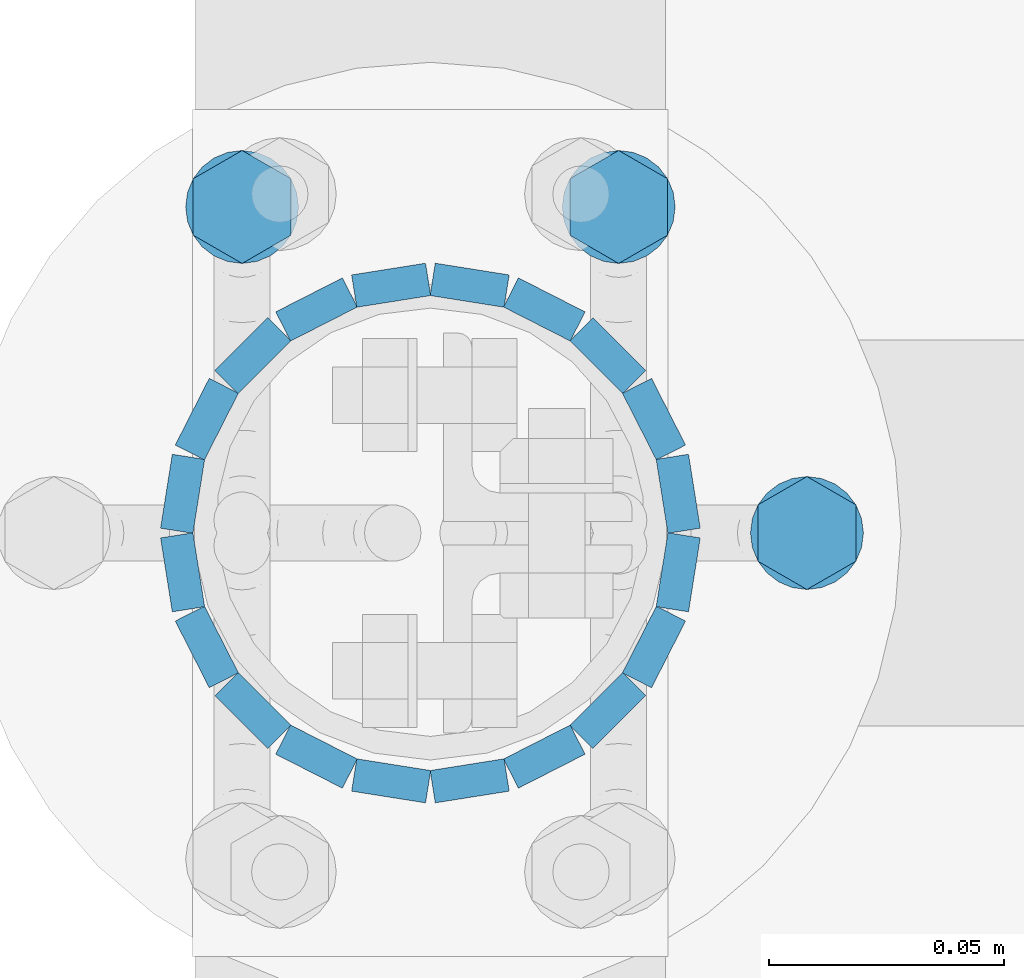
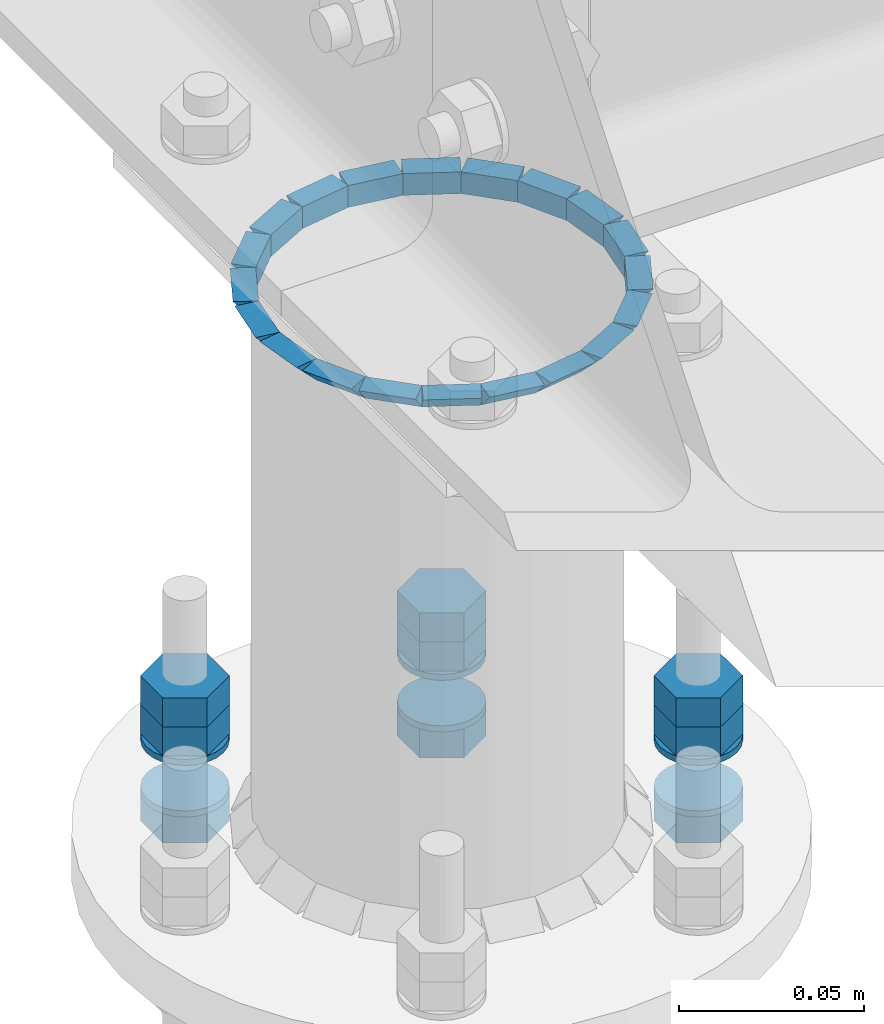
# One storey, part 25 of 84: 40 fasteners, 15 mechanical fasteners.
"""IFC4 building model written with IfcOpenShell, lengths in metres."""

from ifc_helpers import new_model, si_unit, frame, origin_with_axes, place, context, project, spatial, polyline, outline, extrude, type_object, element, save


model = new_model("IFC4")

# Units and contexts
model_context = context("Model", 3, precision=1e-05, world=origin_with_axes())
ifc_project = project(units=[si_unit("LENGTHUNIT", "METRE"), si_unit("AREAUNIT", "SQUARE_METRE"), si_unit("VOLUMEUNIT", "CUBIC_METRE"), si_unit("MASSUNIT", "GRAM", prefix="KILO"), si_unit("TIMEUNIT", "SECOND"), si_unit("PLANEANGLEUNIT", "RADIAN"), si_unit("SOLIDANGLEUNIT", "STERADIAN"), si_unit("THERMODYNAMICTEMPERATUREUNIT", "DEGREE_CELSIUS")], contexts=[model_context])

# Site, building, storey
placement_1 = place(None, origin_with_axes())
site = spatial("IfcSite", under=ifc_project, at=placement_1, Name="Italia", CompositionType="ELEMENT")
building = spatial("IfcBuilding", under=site, at=placement_1, Name="Tettoia", CompositionType="ELEMENT")
storey_placement = place(None, frame((0.0, 0.0, 4.199999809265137), z_axis=(0.0, 0.0, 1.0), x_axis=(1.0, 0.0, 0.0)))
storey = spatial("IfcBuildingStorey", under=building, at=storey_placement, Name="Storey 1", CompositionType="ELEMENT", Elevation=4.199999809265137)

# Mechanical fasteners
mechanical_fastener_type_1 = type_object("IfcMechanicalFastenerType", Name="Collegamento -003_0103", PredefinedType="BOLT")
placement_2 = place(placement_1, origin_with_axes())
mechanical_fastener_1_placement = place(placement_2, origin_with_axes())
element("IfcMechanicalFastener", 1, at=mechanical_fastener_1_placement, inside=storey, type_object=mechanical_fastener_type_1, Name="Collegamento -003_0103", NominalDiameter=0.0119999, context=model_context, shape_type="SweptSolid", body=[
    extrude(outline(polyline([(0.0, 0.0), (-0.0120001, 0.0), (-0.0180001, 0.0103922), (-0.0120001, 0.0207844), (0.0, 0.0207844), (0.00600004, 0.0103922), (0.0, 0.0)])), frame((8.38039, 4.656, 4.017), z_axis=(0.0, 0.0, 1.0), x_axis=(0.0, 1.0, 0.0)), (0.0, 0.0, 1.0), 0.00959969),
])
mechanical_fastener_type_2 = type_object("IfcMechanicalFastenerType", Name="Collegamento -003_0103", PredefinedType="BOLT")
mechanical_fastener_2_placement = place(placement_2, origin_with_axes())
element("IfcMechanicalFastener", 2, at=mechanical_fastener_2_placement, inside=storey, type_object=mechanical_fastener_type_2, Name="Collegamento -003_0103", NominalDiameter=0.0119999, context=model_context, shape_type="SweptSolid", body=[
    extrude(outline(polyline([(0.0, 0.0), (-0.0120001, 0.0), (-0.0180001, 0.0103922), (-0.0120001, 0.0207844), (0.0, 0.0207844), (0.00600004, 0.0103922), (0.0, 0.0)])), frame((8.38039, 4.656, 4.0266), z_axis=(0.0, 0.0, 1.0), x_axis=(0.0, 1.0, 0.0)), (0.0, 0.0, 1.0), 0.00960016),
])
mechanical_fastener_type_3 = type_object("IfcMechanicalFastenerType", Name="Collegamento -003_0103", PredefinedType="BOLT")
mechanical_fastener_3_placement = place(placement_2, origin_with_axes())
element("IfcMechanicalFastener", 3, at=mechanical_fastener_3_placement, inside=storey, type_object=mechanical_fastener_type_3, Name="Collegamento -003_0103", NominalDiameter=0.0119999, context=model_context, shape_type="SweptSolid", body=[
    extrude(outline(polyline([(0.0, 0.0), (-0.0120001, 0.0), (-0.0180001, 0.0103922), (-0.0120001, 0.0207844), (0.0, 0.0207844), (0.00600004, 0.0103922), (0.0, 0.0)])), frame((8.38039, 4.656, 3.9884), z_axis=(0.0, 0.0, 1.0), x_axis=(0.0, 1.0, 0.0)), (0.0, 0.0, 1.0), 0.00959992),
])
mechanical_fastener_type_4 = type_object("IfcMechanicalFastenerType", Name="Collegamento -003_0103", PredefinedType="BOLT")
mechanical_fastener_4_placement = place(placement_2, origin_with_axes())
element("IfcMechanicalFastener", 4, at=mechanical_fastener_4_placement, inside=storey, type_object=mechanical_fastener_type_4, Name="Collegamento -003_0103", NominalDiameter=0.024, context=model_context, shape_type="SweptSolid", body=[
    extrude(outline(polyline([(0.0, 0.0), (-0.000409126, -0.00310612), (-0.00160789, -0.00599957), (-0.00351477, -0.00848484), (-0.00600004, -0.0103922), (-0.00889444, -0.011591), (-0.0120001, -0.0120001), (-0.0151057, -0.011591), (-0.0180001, -0.0103922), (-0.0204854, -0.00848484), (-0.0223923, -0.00599957), (-0.023591, -0.00310612), (-0.0240002, 0.0), (-0.023591, 0.00310612), (-0.0223923, 0.00599957), (-0.0204854, 0.00848484), (-0.0180001, 0.0103922), (-0.0151057, 0.011591), (-0.0120001, 0.0120001), (-0.00889444, 0.011591), (-0.00600004, 0.0103922), (-0.00351477, 0.00848484), (-0.00160789, 0.00599957), (-0.000409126, 0.00310612), (0.0, 0.0)])), frame((8.37, 4.662, 4.015), z_axis=(0.0, 0.0, 1.0), x_axis=(0.0, 1.0, 0.0)), (0.0, 0.0, 1.0), 0.00200033),
])
mechanical_fastener_type_5 = type_object("IfcMechanicalFastenerType", Name="Collegamento -003_0103", PredefinedType="BOLT")
mechanical_fastener_5_placement = place(placement_2, origin_with_axes())
element("IfcMechanicalFastener", 5, at=mechanical_fastener_5_placement, inside=storey, type_object=mechanical_fastener_type_5, Name="Collegamento -003_0103", NominalDiameter=0.024, context=model_context, shape_type="SweptSolid", body=[
    extrude(outline(polyline([(0.0, 0.0), (-0.000409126, -0.00310612), (-0.00160789, -0.00599957), (-0.00351477, -0.00848484), (-0.00600004, -0.0103922), (-0.00889444, -0.011591), (-0.0120001, -0.0120001), (-0.0151057, -0.011591), (-0.0180001, -0.0103922), (-0.0204854, -0.00848484), (-0.0223923, -0.00599957), (-0.023591, -0.00310612), (-0.0240002, 0.0), (-0.023591, 0.00310612), (-0.0223923, 0.00599957), (-0.0204854, 0.00848484), (-0.0180001, 0.0103922), (-0.0151057, 0.011591), (-0.0120001, 0.0120001), (-0.00889444, 0.011591), (-0.00600004, 0.0103922), (-0.00351477, 0.00848484), (-0.00160789, 0.00599957), (-0.000409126, 0.00310612), (0.0, 0.0)])), frame((8.37, 4.662, 3.998), z_axis=(0.0, 0.0, 1.0), x_axis=(0.0, 1.0, 0.0)), (0.0, 0.0, 1.0), 0.00200009),
])
mechanical_fastener_type_6 = type_object("IfcMechanicalFastenerType", Name="Collegamento -003_0103", PredefinedType="BOLT")
mechanical_fastener_6_placement = place(placement_2, origin_with_axes())
element("IfcMechanicalFastener", 6, at=mechanical_fastener_6_placement, inside=storey, type_object=mechanical_fastener_type_6, Name="Collegamento -003_0103", NominalDiameter=0.0119999, context=model_context, shape_type="SweptSolid", body=[
    extrude(outline(polyline([(0.0, 0.0), (-0.0120001, 0.0), (-0.0180001, 0.0103922), (-0.0120001, 0.0207844), (0.0, 0.0207844), (0.00600004, 0.0103922), (0.0, 0.0)])), frame((8.34039, 4.72528, 4.017), z_axis=(0.0, 0.0, 1.0), x_axis=(0.0, 1.0, 0.0)), (0.0, 0.0, 1.0), 0.00959969),
])
mechanical_fastener_type_7 = type_object("IfcMechanicalFastenerType", Name="Collegamento -003_0103", PredefinedType="BOLT")
mechanical_fastener_7_placement = place(placement_2, origin_with_axes())
element("IfcMechanicalFastener", 7, at=mechanical_fastener_7_placement, inside=storey, type_object=mechanical_fastener_type_7, Name="Collegamento -003_0103", NominalDiameter=0.0119999, context=model_context, shape_type="SweptSolid", body=[
    extrude(outline(polyline([(0.0, 0.0), (-0.0120001, 0.0), (-0.0180001, 0.0103922), (-0.0120001, 0.0207844), (0.0, 0.0207844), (0.00600004, 0.0103922), (0.0, 0.0)])), frame((8.34039, 4.72528, 4.0266), z_axis=(0.0, 0.0, 1.0), x_axis=(0.0, 1.0, 0.0)), (0.0, 0.0, 1.0), 0.00960016),
])
mechanical_fastener_type_8 = type_object("IfcMechanicalFastenerType", Name="Collegamento -003_0103", PredefinedType="BOLT")
mechanical_fastener_8_placement = place(placement_2, origin_with_axes())
element("IfcMechanicalFastener", 8, at=mechanical_fastener_8_placement, inside=storey, type_object=mechanical_fastener_type_8, Name="Collegamento -003_0103", NominalDiameter=0.0119999, context=model_context, shape_type="SweptSolid", body=[
    extrude(outline(polyline([(0.0, 0.0), (-0.0120001, 0.0), (-0.0180001, 0.0103922), (-0.0120001, 0.0207844), (0.0, 0.0207844), (0.00600004, 0.0103922), (0.0, 0.0)])), frame((8.34039, 4.72528, 3.9884), z_axis=(0.0, 0.0, 1.0), x_axis=(0.0, 1.0, 0.0)), (0.0, 0.0, 1.0), 0.00959992),
])
mechanical_fastener_type_9 = type_object("IfcMechanicalFastenerType", Name="Collegamento -003_0103", PredefinedType="BOLT")
mechanical_fastener_9_placement = place(placement_2, origin_with_axes())
element("IfcMechanicalFastener", 9, at=mechanical_fastener_9_placement, inside=storey, type_object=mechanical_fastener_type_9, Name="Collegamento -003_0103", NominalDiameter=0.024, context=model_context, shape_type="SweptSolid", body=[
    extrude(outline(polyline([(0.0, 0.0), (-0.000409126, -0.00310612), (-0.00160789, -0.00599957), (-0.00351477, -0.00848484), (-0.00600004, -0.0103922), (-0.00889444, -0.011591), (-0.0120001, -0.0120001), (-0.0151057, -0.011591), (-0.0180001, -0.0103922), (-0.0204854, -0.00848484), (-0.0223923, -0.00599957), (-0.023591, -0.00310612), (-0.0240002, 0.0), (-0.023591, 0.00310612), (-0.0223923, 0.00599957), (-0.0204854, 0.00848484), (-0.0180001, 0.0103922), (-0.0151057, 0.011591), (-0.0120001, 0.0120001), (-0.00889444, 0.011591), (-0.00600004, 0.0103922), (-0.00351477, 0.00848484), (-0.00160789, 0.00599957), (-0.000409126, 0.00310612), (0.0, 0.0)])), frame((8.33, 4.73128, 4.015), z_axis=(0.0, 0.0, 1.0), x_axis=(0.0, 1.0, 0.0)), (0.0, 0.0, 1.0), 0.00200033),
])
mechanical_fastener_type_10 = type_object("IfcMechanicalFastenerType", Name="Collegamento -003_0103", PredefinedType="BOLT")
mechanical_fastener_10_placement = place(placement_2, origin_with_axes())
element("IfcMechanicalFastener", 10, at=mechanical_fastener_10_placement, inside=storey, type_object=mechanical_fastener_type_10, Name="Collegamento -003_0103", NominalDiameter=0.024, context=model_context, shape_type="SweptSolid", body=[
    extrude(outline(polyline([(0.0, 0.0), (-0.000409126, -0.00310612), (-0.00160789, -0.00599957), (-0.00351477, -0.00848484), (-0.00600004, -0.0103922), (-0.00889444, -0.011591), (-0.0120001, -0.0120001), (-0.0151057, -0.011591), (-0.0180001, -0.0103922), (-0.0204854, -0.00848484), (-0.0223923, -0.00599957), (-0.023591, -0.00310612), (-0.0240002, 0.0), (-0.023591, 0.00310612), (-0.0223923, 0.00599957), (-0.0204854, 0.00848484), (-0.0180001, 0.0103922), (-0.0151057, 0.011591), (-0.0120001, 0.0120001), (-0.00889444, 0.011591), (-0.00600004, 0.0103922), (-0.00351477, 0.00848484), (-0.00160789, 0.00599957), (-0.000409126, 0.00310612), (0.0, 0.0)])), frame((8.33, 4.73128, 3.998), z_axis=(0.0, 0.0, 1.0), x_axis=(0.0, 1.0, 0.0)), (0.0, 0.0, 1.0), 0.00200009),
])
mechanical_fastener_type_11 = type_object("IfcMechanicalFastenerType", Name="Collegamento -003_0103", PredefinedType="BOLT")
mechanical_fastener_11_placement = place(placement_2, origin_with_axes())
element("IfcMechanicalFastener", 11, at=mechanical_fastener_11_placement, inside=storey, type_object=mechanical_fastener_type_11, Name="Collegamento -003_0103", NominalDiameter=0.0119999, context=model_context, shape_type="SweptSolid", body=[
    extrude(outline(polyline([(0.0, 0.0), (-0.0120001, 0.0), (-0.0180001, 0.0103922), (-0.0120001, 0.0207844), (0.0, 0.0207844), (0.00600004, 0.0103922), (0.0, 0.0)])), frame((8.26039, 4.72528, 4.017), z_axis=(0.0, 0.0, 1.0), x_axis=(0.0, 1.0, 0.0)), (0.0, 0.0, 1.0), 0.00959969),
])
mechanical_fastener_type_12 = type_object("IfcMechanicalFastenerType", Name="Collegamento -003_0103", PredefinedType="BOLT")
mechanical_fastener_12_placement = place(placement_2, origin_with_axes())
element("IfcMechanicalFastener", 12, at=mechanical_fastener_12_placement, inside=storey, type_object=mechanical_fastener_type_12, Name="Collegamento -003_0103", NominalDiameter=0.0119999, context=model_context, shape_type="SweptSolid", body=[
    extrude(outline(polyline([(0.0, 0.0), (-0.0120001, 0.0), (-0.0180001, 0.0103922), (-0.0120001, 0.0207844), (0.0, 0.0207844), (0.00600004, 0.0103922), (0.0, 0.0)])), frame((8.26039, 4.72528, 4.0266), z_axis=(0.0, 0.0, 1.0), x_axis=(0.0, 1.0, 0.0)), (0.0, 0.0, 1.0), 0.00960016),
])
mechanical_fastener_type_13 = type_object("IfcMechanicalFastenerType", Name="Collegamento -003_0103", PredefinedType="BOLT")
mechanical_fastener_13_placement = place(placement_2, origin_with_axes())
element("IfcMechanicalFastener", 13, at=mechanical_fastener_13_placement, inside=storey, type_object=mechanical_fastener_type_13, Name="Collegamento -003_0103", NominalDiameter=0.0119999, context=model_context, shape_type="SweptSolid", body=[
    extrude(outline(polyline([(0.0, 0.0), (-0.0120001, 0.0), (-0.0180001, 0.0103922), (-0.0120001, 0.0207844), (0.0, 0.0207844), (0.00600004, 0.0103922), (0.0, 0.0)])), frame((8.26039, 4.72528, 3.9884), z_axis=(0.0, 0.0, 1.0), x_axis=(0.0, 1.0, 0.0)), (0.0, 0.0, 1.0), 0.00959992),
])
mechanical_fastener_type_14 = type_object("IfcMechanicalFastenerType", Name="Collegamento -003_0103", PredefinedType="BOLT")
mechanical_fastener_14_placement = place(placement_2, origin_with_axes())
element("IfcMechanicalFastener", 14, at=mechanical_fastener_14_placement, inside=storey, type_object=mechanical_fastener_type_14, Name="Collegamento -003_0103", NominalDiameter=0.024, context=model_context, shape_type="SweptSolid", body=[
    extrude(outline(polyline([(0.0, 0.0), (-0.000409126, -0.00310612), (-0.00160789, -0.00599957), (-0.00351477, -0.00848484), (-0.00600004, -0.0103922), (-0.00889444, -0.011591), (-0.0120001, -0.0120001), (-0.0151057, -0.011591), (-0.0180001, -0.0103922), (-0.0204854, -0.00848484), (-0.0223923, -0.00599957), (-0.023591, -0.00310612), (-0.0240002, 0.0), (-0.023591, 0.00310612), (-0.0223923, 0.00599957), (-0.0204854, 0.00848484), (-0.0180001, 0.0103922), (-0.0151057, 0.011591), (-0.0120001, 0.0120001), (-0.00889444, 0.011591), (-0.00600004, 0.0103922), (-0.00351477, 0.00848484), (-0.00160789, 0.00599957), (-0.000409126, 0.00310612), (0.0, 0.0)])), frame((8.25, 4.73128, 4.015), z_axis=(0.0, 0.0, 1.0), x_axis=(0.0, 1.0, 0.0)), (0.0, 0.0, 1.0), 0.00200033),
])
mechanical_fastener_type_15 = type_object("IfcMechanicalFastenerType", Name="Collegamento -003_0103", PredefinedType="BOLT")
mechanical_fastener_15_placement = place(placement_2, origin_with_axes())
element("IfcMechanicalFastener", 15, at=mechanical_fastener_15_placement, inside=storey, type_object=mechanical_fastener_type_15, Name="Collegamento -003_0103", NominalDiameter=0.024, context=model_context, shape_type="SweptSolid", body=[
    extrude(outline(polyline([(0.0, 0.0), (-0.000409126, -0.00310612), (-0.00160789, -0.00599957), (-0.00351477, -0.00848484), (-0.00600004, -0.0103922), (-0.00889444, -0.011591), (-0.0120001, -0.0120001), (-0.0151057, -0.011591), (-0.0180001, -0.0103922), (-0.0204854, -0.00848484), (-0.0223923, -0.00599957), (-0.023591, -0.00310612), (-0.0240002, 0.0), (-0.023591, 0.00310612), (-0.0223923, 0.00599957), (-0.0204854, 0.00848484), (-0.0180001, 0.0103922), (-0.0151057, 0.011591), (-0.0120001, 0.0120001), (-0.00889444, 0.011591), (-0.00600004, 0.0103922), (-0.00351477, 0.00848484), (-0.00160789, 0.00599957), (-0.000409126, 0.00310612), (0.0, 0.0)])), frame((8.25, 4.73128, 3.998), z_axis=(0.0, 0.0, 1.0), x_axis=(0.0, 1.0, 0.0)), (0.0, 0.0, 1.0), 0.00200009),
])

# Fasteners
fastener_type_1 = type_object("IfcFastenerType", Name="Collegamento 0103_-003", PredefinedType="WELD")
fastener_1_placement = place(placement_2, origin_with_axes())
element("IfcFastener", 16, at=fastener_1_placement, inside=storey, type_object=fastener_type_1, Name="Collegamento 0103_-003", context=model_context, shape_type="SweptSolid", body=[
    extrude(outline(polyline([(0.0, 0.0), (-0.00695753, -0.00717354), (-0.00695753, 0.0), (0.0, 0.0)])), frame((8.29103, 4.70733, 4.19505), z_axis=(0.987694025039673, -0.156398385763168, 0.0), x_axis=(0.156398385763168, 0.987694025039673, 0.0)), (0.0, 0.0, 1.0), 0.0158998),
])
fastener_type_2 = type_object("IfcFastenerType", Name="Collegamento 0103_-003", PredefinedType="WELD")
fastener_2_placement = place(placement_2, origin_with_axes())
element("IfcFastener", 17, at=fastener_2_placement, inside=storey, type_object=fastener_type_2, Name="Collegamento 0103_-003", context=model_context, shape_type="SweptSolid", body=[
    extrude(outline(polyline([(0.0, 0.0), (-0.00695801, -0.00717354), (-0.00695801, 0.0), (0.0, 0.0)])), frame((8.3087, 4.70421, 4.19505), z_axis=(0.891006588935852, -0.453990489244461, 0.0), x_axis=(0.453990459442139, 0.891006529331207, 0.0)), (0.0, 0.0, 1.0), 0.0158998),
])
fastener_type_3 = type_object("IfcFastenerType", Name="Collegamento 0103_-003", PredefinedType="WELD")
fastener_3_placement = place(placement_2, origin_with_axes())
element("IfcFastener", 18, at=fastener_3_placement, inside=storey, type_object=fastener_type_3, Name="Collegamento 0103_-003", context=model_context, shape_type="SweptSolid", body=[
    extrude(outline(polyline([(0.0, 0.0), (-0.00695801, -0.00717354), (-0.00695801, 0.0), (0.0, 0.0)])), frame((8.32453, 4.69578, 4.19505), z_axis=(0.70710676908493, -0.70710676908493, 0.0), x_axis=(0.70710676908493, 0.70710676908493, 0.0)), (0.0, 0.0, 1.0), 0.0158998),
])
fastener_type_4 = type_object("IfcFastenerType", Name="Collegamento 0103_-003", PredefinedType="WELD")
fastener_4_placement = place(placement_2, origin_with_axes())
element("IfcFastener", 19, at=fastener_4_placement, inside=storey, type_object=fastener_type_4, Name="Collegamento 0103_-003", context=model_context, shape_type="SweptSolid", body=[
    extrude(outline(polyline([(0.0, 0.0), (-0.00695896, -0.00717354), (-0.00695896, 0.0), (0.0, 0.0)])), frame((8.33699, 4.68286, 4.19505), z_axis=(0.453990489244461, -0.891006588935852, 0.0), x_axis=(0.891006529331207, 0.453990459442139, 0.0)), (0.0, 0.0, 1.0), 0.0158998),
])
fastener_type_5 = type_object("IfcFastenerType", Name="Collegamento 0103_-003", PredefinedType="WELD")
fastener_5_placement = place(placement_2, origin_with_axes())
element("IfcFastener", 20, at=fastener_5_placement, inside=storey, type_object=fastener_type_5, Name="Collegamento 0103_-003", context=model_context, shape_type="SweptSolid", body=[
    extrude(outline(polyline([(0.0, 0.0), (-0.00695801, -0.00717354), (-0.00695801, 0.0), (0.0, 0.0)])), frame((8.34484, 4.66674, 4.19505), z_axis=(0.1564861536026, -0.987680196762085, 0.0), x_axis=(0.98768013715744, 0.156486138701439, 0.0)), (0.0, 0.0, 1.0), 0.0159),
])
fastener_type_6 = type_object("IfcFastenerType", Name="Collegamento 0103_-003", PredefinedType="WELD")
fastener_6_placement = place(placement_2, origin_with_axes())
element("IfcFastener", 21, at=fastener_6_placement, inside=storey, type_object=fastener_type_6, Name="Collegamento 0103_-003", context=model_context, shape_type="SweptSolid", body=[
    extrude(outline(polyline([(0.0, 0.0), (-0.00695896, -0.00717354), (-0.00695896, 0.0), (0.0, 0.0)])), frame((8.34733, 4.64897, 4.19505), z_axis=(-0.1564861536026, -0.987680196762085, 0.0), x_axis=(0.98768013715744, -0.156486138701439, 0.0)), (0.0, 0.0, 1.0), 0.0159),
])
fastener_type_7 = type_object("IfcFastenerType", Name="Collegamento 0103_-003", PredefinedType="WELD")
fastener_7_placement = place(placement_2, origin_with_axes())
element("IfcFastener", 22, at=fastener_7_placement, inside=storey, type_object=fastener_type_7, Name="Collegamento 0103_-003", context=model_context, shape_type="SweptSolid", body=[
    extrude(outline(polyline([(0.0, 0.0), (-0.00695801, -0.00717354), (-0.00695801, 0.0), (0.0, 0.0)])), frame((8.34421, 4.6313, 4.19505), z_axis=(-0.453990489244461, -0.891006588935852, 0.0), x_axis=(0.891006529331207, -0.453990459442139, 0.0)), (0.0, 0.0, 1.0), 0.0158998),
])
fastener_type_8 = type_object("IfcFastenerType", Name="Collegamento 0103_-003", PredefinedType="WELD")
fastener_8_placement = place(placement_2, origin_with_axes())
element("IfcFastener", 23, at=fastener_8_placement, inside=storey, type_object=fastener_type_8, Name="Collegamento 0103_-003", context=model_context, shape_type="SweptSolid", body=[
    extrude(outline(polyline([(0.0, 0.0), (-0.00695777, -0.00717354), (-0.00695777, 0.0), (0.0, 0.0)])), frame((8.33578, 4.61547, 4.19505), z_axis=(-0.70710676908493, -0.70710676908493, 0.0), x_axis=(0.70710676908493, -0.70710676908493, 0.0)), (0.0, 0.0, 1.0), 0.0158998),
])
fastener_type_9 = type_object("IfcFastenerType", Name="Collegamento 0103_-003", PredefinedType="WELD")
fastener_9_placement = place(placement_2, origin_with_axes())
element("IfcFastener", 24, at=fastener_9_placement, inside=storey, type_object=fastener_type_9, Name="Collegamento 0103_-003", context=model_context, shape_type="SweptSolid", body=[
    extrude(outline(polyline([(0.0, 0.0), (-0.00695801, -0.00717354), (-0.00695801, 0.0), (0.0, 0.0)])), frame((8.32286, 4.60301, 4.19505), z_axis=(-0.891006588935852, -0.453990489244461, 0.0), x_axis=(0.453990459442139, -0.891006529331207, 0.0)), (0.0, 0.0, 1.0), 0.0158998),
])
fastener_type_10 = type_object("IfcFastenerType", Name="Collegamento 0103_-003", PredefinedType="WELD")
fastener_10_placement = place(placement_2, origin_with_axes())
element("IfcFastener", 25, at=fastener_10_placement, inside=storey, type_object=fastener_type_10, Name="Collegamento 0103_-003", context=model_context, shape_type="SweptSolid", body=[
    extrude(outline(polyline([(0.0, 0.0), (-0.00695848, -0.00717354), (-0.00695848, 0.0), (0.0, 0.0)])), frame((8.30674, 4.59516, 4.19505), z_axis=(-0.987694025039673, -0.156398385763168, 0.0), x_axis=(0.156398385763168, -0.987694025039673, 0.0)), (0.0, 0.0, 1.0), 0.0158998),
])
fastener_type_11 = type_object("IfcFastenerType", Name="Collegamento 0103_-003", PredefinedType="WELD")
fastener_11_placement = place(placement_2, origin_with_axes())
element("IfcFastener", 26, at=fastener_11_placement, inside=storey, type_object=fastener_type_11, Name="Collegamento 0103_-003", context=model_context, shape_type="SweptSolid", body=[
    extrude(outline(polyline([(0.0, 0.0), (-0.00695801, -0.00717354), (-0.00695801, 0.0), (0.0, 0.0)])), frame((8.28897, 4.59267, 4.19505), z_axis=(-0.987694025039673, 0.156398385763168, 0.0), x_axis=(-0.156398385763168, -0.987694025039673, 0.0)), (0.0, 0.0, 1.0), 0.0158998),
])
fastener_type_12 = type_object("IfcFastenerType", Name="Collegamento 0103_-003", PredefinedType="WELD")
fastener_12_placement = place(placement_2, origin_with_axes())
element("IfcFastener", 27, at=fastener_12_placement, inside=storey, type_object=fastener_type_12, Name="Collegamento 0103_-003", context=model_context, shape_type="SweptSolid", body=[
    extrude(outline(polyline([(0.0, 0.0), (-0.00695848, -0.00717354), (-0.00695848, 0.0), (0.0, 0.0)])), frame((8.2713, 4.59579, 4.19505), z_axis=(-0.891006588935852, 0.453990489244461, 0.0), x_axis=(-0.453990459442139, -0.891006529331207, 0.0)), (0.0, 0.0, 1.0), 0.0158998),
])
fastener_type_13 = type_object("IfcFastenerType", Name="Collegamento 0103_-003", PredefinedType="WELD")
fastener_13_placement = place(placement_2, origin_with_axes())
element("IfcFastener", 28, at=fastener_13_placement, inside=storey, type_object=fastener_type_13, Name="Collegamento 0103_-003", context=model_context, shape_type="SweptSolid", body=[
    extrude(outline(polyline([(0.0, 0.0), (-0.00695801, -0.00717354), (-0.00695801, 0.0), (0.0, 0.0)])), frame((8.25547, 4.60422, 4.19505), z_axis=(-0.70710676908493, 0.70710676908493, 0.0), x_axis=(-0.70710676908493, -0.70710676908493, 0.0)), (0.0, 0.0, 1.0), 0.0158998),
])
fastener_type_14 = type_object("IfcFastenerType", Name="Collegamento 0103_-003", PredefinedType="WELD")
fastener_14_placement = place(placement_2, origin_with_axes())
element("IfcFastener", 29, at=fastener_14_placement, inside=storey, type_object=fastener_type_14, Name="Collegamento 0103_-003", context=model_context, shape_type="SweptSolid", body=[
    extrude(outline(polyline([(0.0, 0.0), (-0.00695801, -0.00717354), (-0.00695801, 0.0), (0.0, 0.0)])), frame((8.24301, 4.61714, 4.19505), z_axis=(-0.453990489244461, 0.891006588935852, 0.0), x_axis=(-0.891006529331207, -0.453990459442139, 0.0)), (0.0, 0.0, 1.0), 0.0158998),
])
fastener_type_15 = type_object("IfcFastenerType", Name="Collegamento 0103_-003", PredefinedType="WELD")
fastener_15_placement = place(placement_2, origin_with_axes())
element("IfcFastener", 30, at=fastener_15_placement, inside=storey, type_object=fastener_type_15, Name="Collegamento 0103_-003", context=model_context, shape_type="SweptSolid", body=[
    extrude(outline(polyline([(0.0, 0.0), (-0.00695801, -0.00717354), (-0.00695801, 0.0), (0.0, 0.0)])), frame((8.23516, 4.63326, 4.19505), z_axis=(-0.1564861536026, 0.987680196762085, 0.0), x_axis=(-0.98768013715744, -0.156486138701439, 0.0)), (0.0, 0.0, 1.0), 0.0159),
])
fastener_type_16 = type_object("IfcFastenerType", Name="Collegamento 0103_-003", PredefinedType="WELD")
fastener_16_placement = place(placement_2, origin_with_axes())
element("IfcFastener", 31, at=fastener_16_placement, inside=storey, type_object=fastener_type_16, Name="Collegamento 0103_-003", context=model_context, shape_type="SweptSolid", body=[
    extrude(outline(polyline([(0.0, 0.0), (-0.00695944, -0.00717354), (-0.00695944, 0.0), (0.0, 0.0)])), frame((8.23267, 4.65103, 4.19505), z_axis=(0.1564861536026, 0.987680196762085, 0.0), x_axis=(-0.98768013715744, 0.156486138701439, 0.0)), (0.0, 0.0, 1.0), 0.0159),
])
fastener_type_17 = type_object("IfcFastenerType", Name="Collegamento 0103_-003", PredefinedType="WELD")
fastener_17_placement = place(placement_2, origin_with_axes())
element("IfcFastener", 32, at=fastener_17_placement, inside=storey, type_object=fastener_type_17, Name="Collegamento 0103_-003", context=model_context, shape_type="SweptSolid", body=[
    extrude(outline(polyline([(0.0, 0.0), (-0.00695848, -0.00717354), (-0.00695848, 0.0), (0.0, 0.0)])), frame((8.23579, 4.6687, 4.19505), z_axis=(0.453990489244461, 0.891006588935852, 0.0), x_axis=(-0.891006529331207, 0.453990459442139, 0.0)), (0.0, 0.0, 1.0), 0.0158998),
])
fastener_type_18 = type_object("IfcFastenerType", Name="Collegamento 0103_-003", PredefinedType="WELD")
fastener_18_placement = place(placement_2, origin_with_axes())
element("IfcFastener", 33, at=fastener_18_placement, inside=storey, type_object=fastener_type_18, Name="Collegamento 0103_-003", context=model_context, shape_type="SweptSolid", body=[
    extrude(outline(polyline([(0.0, 0.0), (-0.00695801, -0.00717354), (-0.00695801, 0.0), (0.0, 0.0)])), frame((8.24422, 4.68453, 4.19505), z_axis=(0.70710676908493, 0.70710676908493, 0.0), x_axis=(-0.70710676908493, 0.70710676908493, 0.0)), (0.0, 0.0, 1.0), 0.0158998),
])
fastener_type_19 = type_object("IfcFastenerType", Name="Collegamento 0103_-003", PredefinedType="WELD")
fastener_19_placement = place(placement_2, origin_with_axes())
element("IfcFastener", 34, at=fastener_19_placement, inside=storey, type_object=fastener_type_19, Name="Collegamento 0103_-003", context=model_context, shape_type="SweptSolid", body=[
    extrude(outline(polyline([(0.0, 0.0), (-0.00695777, -0.00717354), (-0.00695777, 0.0), (0.0, 0.0)])), frame((8.25714, 4.69699, 4.19505), z_axis=(0.891006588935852, 0.453990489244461, 0.0), x_axis=(-0.453990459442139, 0.891006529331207, 0.0)), (0.0, 0.0, 1.0), 0.0158998),
])
fastener_type_20 = type_object("IfcFastenerType", Name="Collegamento 0103_-003", PredefinedType="WELD")
fastener_20_placement = place(placement_2, origin_with_axes())
element("IfcFastener", 35, at=fastener_20_placement, inside=storey, type_object=fastener_type_20, Name="Collegamento 0103_-003", context=model_context, shape_type="SweptSolid", body=[
    extrude(outline(polyline([(0.0, 0.0), (-0.00695801, -0.00717354), (-0.00695801, 0.0), (0.0, 0.0)])), frame((8.27326, 4.70484, 4.19505), z_axis=(0.987694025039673, 0.156398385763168, 0.0), x_axis=(-0.156398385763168, 0.987694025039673, 0.0)), (0.0, 0.0, 1.0), 0.0158998),
])
fastener_type_21 = type_object("IfcFastenerType", Name="Collegamento 0103_-003", PredefinedType="WELD")
fastener_21_placement = place(placement_2, origin_with_axes())
element("IfcFastener", 36, at=fastener_21_placement, inside=storey, type_object=fastener_type_21, Name="Collegamento 0103_-003", context=model_context, shape_type="SweptSolid", body=[
    extrude(outline(polyline([(0.0, 0.0), (-0.00695753, -0.00717354), (-0.00695753, 0.0), (0.0, 0.0)])), frame((8.29103, 4.70733, 4.19505), z_axis=(0.987694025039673, -0.156398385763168, 0.0), x_axis=(0.156398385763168, 0.987694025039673, 0.0)), (0.0, 0.0, 1.0), 0.0158998),
])
fastener_type_22 = type_object("IfcFastenerType", Name="Collegamento 0103_-003", PredefinedType="WELD")
fastener_22_placement = place(placement_2, origin_with_axes())
element("IfcFastener", 37, at=fastener_22_placement, inside=storey, type_object=fastener_type_22, Name="Collegamento 0103_-003", context=model_context, shape_type="SweptSolid", body=[
    extrude(outline(polyline([(0.0, 0.0), (-0.00695801, -0.00717354), (-0.00695801, 0.0), (0.0, 0.0)])), frame((8.3087, 4.70421, 4.19505), z_axis=(0.891006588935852, -0.453990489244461, 0.0), x_axis=(0.453990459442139, 0.891006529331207, 0.0)), (0.0, 0.0, 1.0), 0.0158998),
])
fastener_type_23 = type_object("IfcFastenerType", Name="Collegamento 0103_-003", PredefinedType="WELD")
fastener_23_placement = place(placement_2, origin_with_axes())
element("IfcFastener", 38, at=fastener_23_placement, inside=storey, type_object=fastener_type_23, Name="Collegamento 0103_-003", context=model_context, shape_type="SweptSolid", body=[
    extrude(outline(polyline([(0.0, 0.0), (-0.00695801, -0.00717354), (-0.00695801, 0.0), (0.0, 0.0)])), frame((8.32453, 4.69578, 4.19505), z_axis=(0.70710676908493, -0.70710676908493, 0.0), x_axis=(0.70710676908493, 0.70710676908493, 0.0)), (0.0, 0.0, 1.0), 0.0158998),
])
fastener_type_24 = type_object("IfcFastenerType", Name="Collegamento 0103_-003", PredefinedType="WELD")
fastener_24_placement = place(placement_2, origin_with_axes())
element("IfcFastener", 39, at=fastener_24_placement, inside=storey, type_object=fastener_type_24, Name="Collegamento 0103_-003", context=model_context, shape_type="SweptSolid", body=[
    extrude(outline(polyline([(0.0, 0.0), (-0.00695896, -0.00717354), (-0.00695896, 0.0), (0.0, 0.0)])), frame((8.33699, 4.68286, 4.19505), z_axis=(0.453990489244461, -0.891006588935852, 0.0), x_axis=(0.891006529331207, 0.453990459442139, 0.0)), (0.0, 0.0, 1.0), 0.0158998),
])
fastener_type_25 = type_object("IfcFastenerType", Name="Collegamento 0103_-003", PredefinedType="WELD")
fastener_25_placement = place(placement_2, origin_with_axes())
element("IfcFastener", 40, at=fastener_25_placement, inside=storey, type_object=fastener_type_25, Name="Collegamento 0103_-003", context=model_context, shape_type="SweptSolid", body=[
    extrude(outline(polyline([(0.0, 0.0), (-0.00695801, -0.00717354), (-0.00695801, 0.0), (0.0, 0.0)])), frame((8.34484, 4.66674, 4.19505), z_axis=(0.1564861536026, -0.987680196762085, 0.0), x_axis=(0.98768013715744, 0.156486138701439, 0.0)), (0.0, 0.0, 1.0), 0.0159),
])
fastener_type_26 = type_object("IfcFastenerType", Name="Collegamento 0103_-003", PredefinedType="WELD")
fastener_26_placement = place(placement_2, origin_with_axes())
element("IfcFastener", 41, at=fastener_26_placement, inside=storey, type_object=fastener_type_26, Name="Collegamento 0103_-003", context=model_context, shape_type="SweptSolid", body=[
    extrude(outline(polyline([(0.0, 0.0), (-0.00695896, -0.00717354), (-0.00695896, 0.0), (0.0, 0.0)])), frame((8.34733, 4.64897, 4.19505), z_axis=(-0.1564861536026, -0.987680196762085, 0.0), x_axis=(0.98768013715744, -0.156486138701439, 0.0)), (0.0, 0.0, 1.0), 0.0159),
])
fastener_type_27 = type_object("IfcFastenerType", Name="Collegamento 0103_-003", PredefinedType="WELD")
fastener_27_placement = place(placement_2, origin_with_axes())
element("IfcFastener", 42, at=fastener_27_placement, inside=storey, type_object=fastener_type_27, Name="Collegamento 0103_-003", context=model_context, shape_type="SweptSolid", body=[
    extrude(outline(polyline([(0.0, 0.0), (-0.00695801, -0.00717354), (-0.00695801, 0.0), (0.0, 0.0)])), frame((8.34421, 4.6313, 4.19505), z_axis=(-0.453990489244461, -0.891006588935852, 0.0), x_axis=(0.891006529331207, -0.453990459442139, 0.0)), (0.0, 0.0, 1.0), 0.0158998),
])
fastener_type_28 = type_object("IfcFastenerType", Name="Collegamento 0103_-003", PredefinedType="WELD")
fastener_28_placement = place(placement_2, origin_with_axes())
element("IfcFastener", 43, at=fastener_28_placement, inside=storey, type_object=fastener_type_28, Name="Collegamento 0103_-003", context=model_context, shape_type="SweptSolid", body=[
    extrude(outline(polyline([(0.0, 0.0), (-0.00695777, -0.00717354), (-0.00695777, 0.0), (0.0, 0.0)])), frame((8.33578, 4.61547, 4.19505), z_axis=(-0.70710676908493, -0.70710676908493, 0.0), x_axis=(0.70710676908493, -0.70710676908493, 0.0)), (0.0, 0.0, 1.0), 0.0158998),
])
fastener_type_29 = type_object("IfcFastenerType", Name="Collegamento 0103_-003", PredefinedType="WELD")
fastener_29_placement = place(placement_2, origin_with_axes())
element("IfcFastener", 44, at=fastener_29_placement, inside=storey, type_object=fastener_type_29, Name="Collegamento 0103_-003", context=model_context, shape_type="SweptSolid", body=[
    extrude(outline(polyline([(0.0, 0.0), (-0.00695801, -0.00717354), (-0.00695801, 0.0), (0.0, 0.0)])), frame((8.32286, 4.60301, 4.19505), z_axis=(-0.891006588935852, -0.453990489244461, 0.0), x_axis=(0.453990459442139, -0.891006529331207, 0.0)), (0.0, 0.0, 1.0), 0.0158998),
])
fastener_type_30 = type_object("IfcFastenerType", Name="Collegamento 0103_-003", PredefinedType="WELD")
fastener_30_placement = place(placement_2, origin_with_axes())
element("IfcFastener", 45, at=fastener_30_placement, inside=storey, type_object=fastener_type_30, Name="Collegamento 0103_-003", context=model_context, shape_type="SweptSolid", body=[
    extrude(outline(polyline([(0.0, 0.0), (-0.00695848, -0.00717354), (-0.00695848, 0.0), (0.0, 0.0)])), frame((8.30674, 4.59516, 4.19505), z_axis=(-0.987694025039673, -0.156398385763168, 0.0), x_axis=(0.156398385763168, -0.987694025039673, 0.0)), (0.0, 0.0, 1.0), 0.0158998),
])
fastener_type_31 = type_object("IfcFastenerType", Name="Collegamento 0103_-003", PredefinedType="WELD")
fastener_31_placement = place(placement_2, origin_with_axes())
element("IfcFastener", 46, at=fastener_31_placement, inside=storey, type_object=fastener_type_31, Name="Collegamento 0103_-003", context=model_context, shape_type="SweptSolid", body=[
    extrude(outline(polyline([(0.0, 0.0), (-0.00695801, -0.00717354), (-0.00695801, 0.0), (0.0, 0.0)])), frame((8.28897, 4.59267, 4.19505), z_axis=(-0.987694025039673, 0.156398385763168, 0.0), x_axis=(-0.156398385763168, -0.987694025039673, 0.0)), (0.0, 0.0, 1.0), 0.0158998),
])
fastener_type_32 = type_object("IfcFastenerType", Name="Collegamento 0103_-003", PredefinedType="WELD")
fastener_32_placement = place(placement_2, origin_with_axes())
element("IfcFastener", 47, at=fastener_32_placement, inside=storey, type_object=fastener_type_32, Name="Collegamento 0103_-003", context=model_context, shape_type="SweptSolid", body=[
    extrude(outline(polyline([(0.0, 0.0), (-0.00695848, -0.00717354), (-0.00695848, 0.0), (0.0, 0.0)])), frame((8.2713, 4.59579, 4.19505), z_axis=(-0.891006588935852, 0.453990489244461, 0.0), x_axis=(-0.453990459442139, -0.891006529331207, 0.0)), (0.0, 0.0, 1.0), 0.0158998),
])
fastener_type_33 = type_object("IfcFastenerType", Name="Collegamento 0103_-003", PredefinedType="WELD")
fastener_33_placement = place(placement_2, origin_with_axes())
element("IfcFastener", 48, at=fastener_33_placement, inside=storey, type_object=fastener_type_33, Name="Collegamento 0103_-003", context=model_context, shape_type="SweptSolid", body=[
    extrude(outline(polyline([(0.0, 0.0), (-0.00695801, -0.00717354), (-0.00695801, 0.0), (0.0, 0.0)])), frame((8.25547, 4.60422, 4.19505), z_axis=(-0.70710676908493, 0.70710676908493, 0.0), x_axis=(-0.70710676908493, -0.70710676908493, 0.0)), (0.0, 0.0, 1.0), 0.0158998),
])
fastener_type_34 = type_object("IfcFastenerType", Name="Collegamento 0103_-003", PredefinedType="WELD")
fastener_34_placement = place(placement_2, origin_with_axes())
element("IfcFastener", 49, at=fastener_34_placement, inside=storey, type_object=fastener_type_34, Name="Collegamento 0103_-003", context=model_context, shape_type="SweptSolid", body=[
    extrude(outline(polyline([(0.0, 0.0), (-0.00695801, -0.00717354), (-0.00695801, 0.0), (0.0, 0.0)])), frame((8.24301, 4.61714, 4.19505), z_axis=(-0.453990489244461, 0.891006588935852, 0.0), x_axis=(-0.891006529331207, -0.453990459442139, 0.0)), (0.0, 0.0, 1.0), 0.0158998),
])
fastener_type_35 = type_object("IfcFastenerType", Name="Collegamento 0103_-003", PredefinedType="WELD")
fastener_35_placement = place(placement_2, origin_with_axes())
element("IfcFastener", 50, at=fastener_35_placement, inside=storey, type_object=fastener_type_35, Name="Collegamento 0103_-003", context=model_context, shape_type="SweptSolid", body=[
    extrude(outline(polyline([(0.0, 0.0), (-0.00695801, -0.00717354), (-0.00695801, 0.0), (0.0, 0.0)])), frame((8.23516, 4.63326, 4.19505), z_axis=(-0.1564861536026, 0.987680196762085, 0.0), x_axis=(-0.98768013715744, -0.156486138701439, 0.0)), (0.0, 0.0, 1.0), 0.0159),
])
fastener_type_36 = type_object("IfcFastenerType", Name="Collegamento 0103_-003", PredefinedType="WELD")
fastener_36_placement = place(placement_2, origin_with_axes())
element("IfcFastener", 51, at=fastener_36_placement, inside=storey, type_object=fastener_type_36, Name="Collegamento 0103_-003", context=model_context, shape_type="SweptSolid", body=[
    extrude(outline(polyline([(0.0, 0.0), (-0.00695944, -0.00717354), (-0.00695944, 0.0), (0.0, 0.0)])), frame((8.23267, 4.65103, 4.19505), z_axis=(0.1564861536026, 0.987680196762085, 0.0), x_axis=(-0.98768013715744, 0.156486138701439, 0.0)), (0.0, 0.0, 1.0), 0.0159),
])
fastener_type_37 = type_object("IfcFastenerType", Name="Collegamento 0103_-003", PredefinedType="WELD")
fastener_37_placement = place(placement_2, origin_with_axes())
element("IfcFastener", 52, at=fastener_37_placement, inside=storey, type_object=fastener_type_37, Name="Collegamento 0103_-003", context=model_context, shape_type="SweptSolid", body=[
    extrude(outline(polyline([(0.0, 0.0), (-0.00695848, -0.00717354), (-0.00695848, 0.0), (0.0, 0.0)])), frame((8.23579, 4.6687, 4.19505), z_axis=(0.453990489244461, 0.891006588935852, 0.0), x_axis=(-0.891006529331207, 0.453990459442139, 0.0)), (0.0, 0.0, 1.0), 0.0158998),
])
fastener_type_38 = type_object("IfcFastenerType", Name="Collegamento 0103_-003", PredefinedType="WELD")
fastener_38_placement = place(placement_2, origin_with_axes())
element("IfcFastener", 53, at=fastener_38_placement, inside=storey, type_object=fastener_type_38, Name="Collegamento 0103_-003", context=model_context, shape_type="SweptSolid", body=[
    extrude(outline(polyline([(0.0, 0.0), (-0.00695801, -0.00717354), (-0.00695801, 0.0), (0.0, 0.0)])), frame((8.24422, 4.68453, 4.19505), z_axis=(0.70710676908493, 0.70710676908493, 0.0), x_axis=(-0.70710676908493, 0.70710676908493, 0.0)), (0.0, 0.0, 1.0), 0.0158998),
])
fastener_type_39 = type_object("IfcFastenerType", Name="Collegamento 0103_-003", PredefinedType="WELD")
fastener_39_placement = place(placement_2, origin_with_axes())
element("IfcFastener", 54, at=fastener_39_placement, inside=storey, type_object=fastener_type_39, Name="Collegamento 0103_-003", context=model_context, shape_type="SweptSolid", body=[
    extrude(outline(polyline([(0.0, 0.0), (-0.00695777, -0.00717354), (-0.00695777, 0.0), (0.0, 0.0)])), frame((8.25714, 4.69699, 4.19505), z_axis=(0.891006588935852, 0.453990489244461, 0.0), x_axis=(-0.453990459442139, 0.891006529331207, 0.0)), (0.0, 0.0, 1.0), 0.0158998),
])
fastener_type_40 = type_object("IfcFastenerType", Name="Collegamento 0103_-003", PredefinedType="WELD")
fastener_40_placement = place(placement_2, origin_with_axes())
element("IfcFastener", 55, at=fastener_40_placement, inside=storey, type_object=fastener_type_40, Name="Collegamento 0103_-003", context=model_context, shape_type="SweptSolid", body=[
    extrude(outline(polyline([(0.0, 0.0), (-0.00695801, -0.00717354), (-0.00695801, 0.0), (0.0, 0.0)])), frame((8.27326, 4.70484, 4.19505), z_axis=(0.987694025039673, 0.156398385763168, 0.0), x_axis=(-0.156398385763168, 0.987694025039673, 0.0)), (0.0, 0.0, 1.0), 0.0158998),
])

save(model, "model.ifc")
